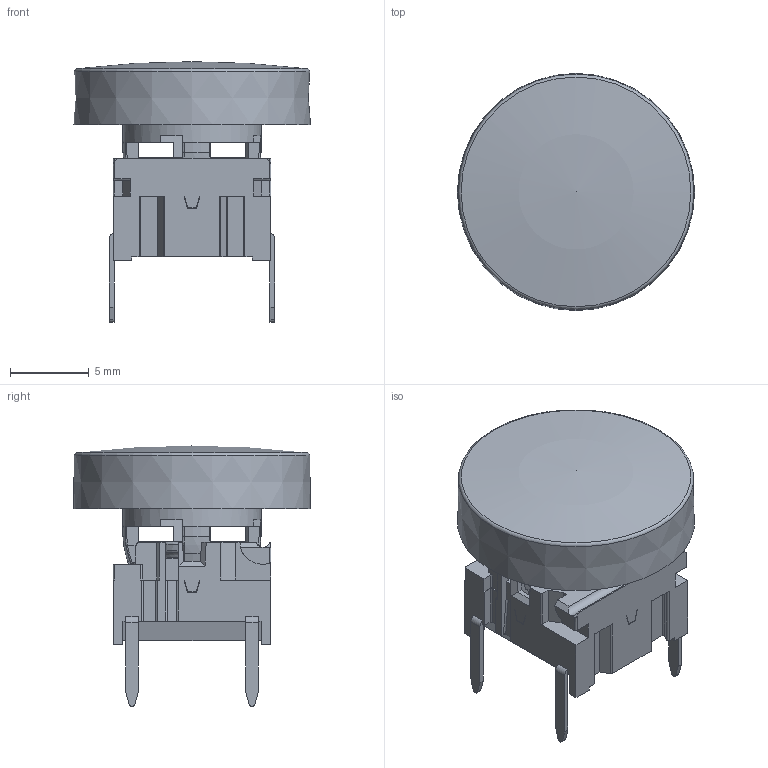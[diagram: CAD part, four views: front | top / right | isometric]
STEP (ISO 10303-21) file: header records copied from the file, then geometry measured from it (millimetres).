
FILE_DESCRIPTION(/* description */ (''),/* implementation_level */ '2;1');
FILE_NAME(/* name */ 'C:\Users\cgh.MEC\Desktop\Traceparts - 3D programserie\STEP filer\TH\5GTH9+1GCS.stp',/* time_stamp */ '2016-02-15T14:52:39+01:00',/* author */ ('cgh'),/* organization */ (''),/* preprocessor_version */ 'ST-DEVELOPER v15.2',/* originating_system */ 'Autodesk Inventor 2014',/* authorisation */ '');
FILE_SCHEMA (('AUTOMOTIVE_DESIGN { 1 0 10303 214 3 1 1 }'));
Length unit declared in the file: centimetre
Products named in the file (1): cgh
Bounding box: 15.02 x 15.02 x 16.51 mm (x, y, z)
Volume: 849.7 mm3; surface area: 1754.9 mm2
Topology: 1 solids, 1 shells, 985 faces, 2787 edges, 1823 vertices
Faces by surface type: plane 618, bspline 140, cylinder 131, torus 57, cone 38, sphere 1
Full cylindrical faces by diameter (mm): 0.9 x1, 1 x3, 2.8 x1, 4.73 x1, 6.5 x1, 7.2 x1, 7.44 x1, 8.76 x1
Entity records: 35345 total; most frequent: CARTESIAN_POINT 9669, ORIENTED_EDGE 5502, DIRECTION 4597, EDGE_CURVE 2743, VERTEX_POINT 1808, LINE 1723, VECTOR 1723, AXIS2_PLACEMENT_3D 1437
